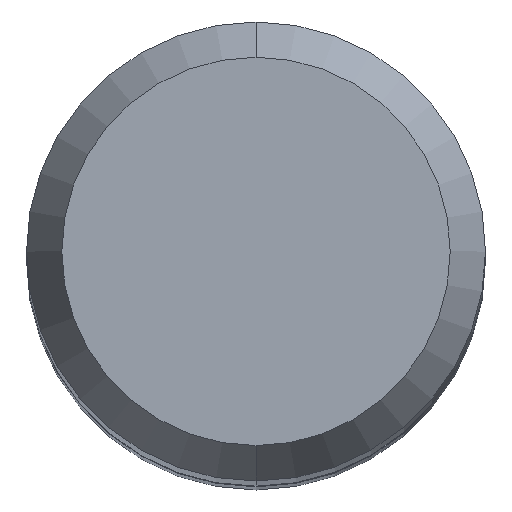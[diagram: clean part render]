
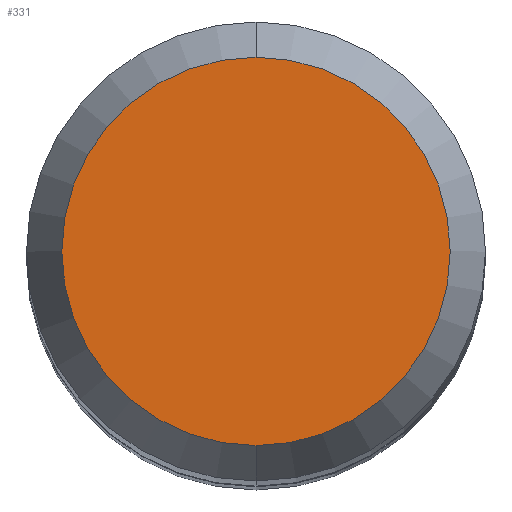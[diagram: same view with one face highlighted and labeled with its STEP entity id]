
A CAD part, top view. The second image highlights one B-rep face of the part: STEP entity #331.
In plain terms, the highlighted planar face has unit normal (0, 0, 1).
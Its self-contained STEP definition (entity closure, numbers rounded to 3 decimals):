
#283=EDGE_CURVE('',#521,#413,#712,.T.);
#301=EDGE_CURVE('',#413,#521,#732,.T.);
#331=ADVANCED_FACE('',(#765),#766,.T.);
#413=VERTEX_POINT('',#853);
#521=VERTEX_POINT('',#979);
#712=CIRCLE('',#1198,2.538);
#732=CIRCLE('',#1224,2.538);
#765=FACE_OUTER_BOUND('',#1264,.T.);
#766=PLANE('',#1265);
#853=CARTESIAN_POINT('',(0.0,2.538,0.0));
#979=CARTESIAN_POINT('',(0.,-2.538,0.0));
#1198=AXIS2_PLACEMENT_3D('',#1995,#1996,#1997);
#1224=AXIS2_PLACEMENT_3D('',#2019,#2020,#2021);
#1264=EDGE_LOOP('',(#2058,#2059));
#1265=AXIS2_PLACEMENT_3D('',#2060,#2061,#2062);
#1995=CARTESIAN_POINT('',(0.0,0.0,0.0));
#1996=DIRECTION('',(0.0,0.0,-1.0));
#1997=DIRECTION('',(0.0,1.0,0.0));
#2019=CARTESIAN_POINT('',(0.0,0.0,0.0));
#2020=DIRECTION('',(0.0,0.0,-1.0));
#2021=DIRECTION('',(0.0,1.0,0.0));
#2058=ORIENTED_EDGE('',*,*,#301,.F.);
#2059=ORIENTED_EDGE('',*,*,#283,.F.);
#2060=CARTESIAN_POINT('',(0.0,1.269,0.0));
#2061=DIRECTION('',(-0.0,0.0,1.0));
#2062=DIRECTION('',(0.0,-1.0,0.0));
